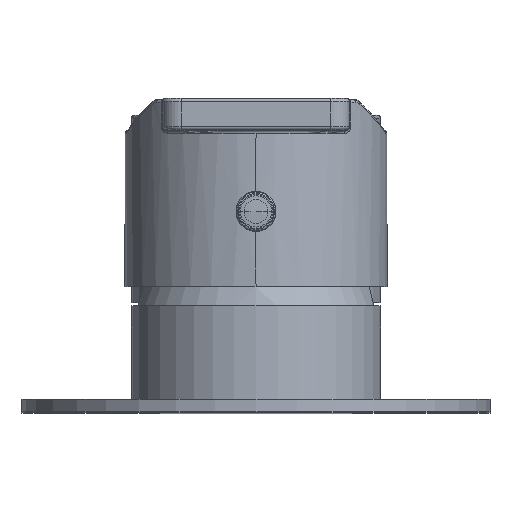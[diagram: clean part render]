
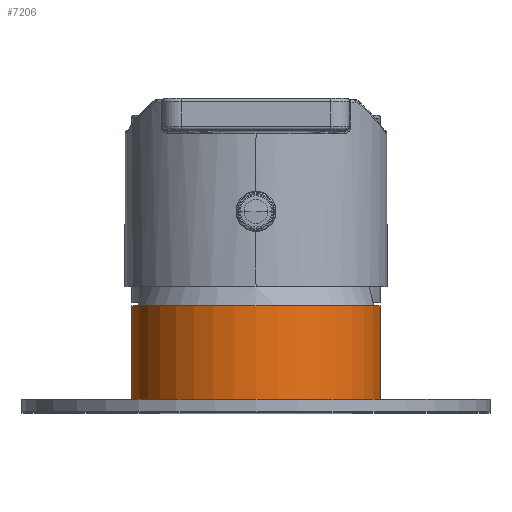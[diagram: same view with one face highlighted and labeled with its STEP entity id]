
A CAD part, top view. The second image highlights one B-rep face of the part: STEP entity #7206.
In plain terms, the highlighted cylindrical face has radius 20 mm (diameter 40 mm), a partial arc.
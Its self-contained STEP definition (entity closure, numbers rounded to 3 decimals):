
#297=CARTESIAN_POINT('',(0.,97.,-67.5));
#298=DIRECTION('',(0.,-1.,0.));
#299=DIRECTION('',(1.,0.,0.));
#300=AXIS2_PLACEMENT_3D('',#297,#298,#299);
#317=CARTESIAN_POINT('',(0.,82.,-67.5));
#318=DIRECTION('',(0.,1.,0.));
#319=DIRECTION('',(-1.,0.,0.));
#320=AXIS2_PLACEMENT_3D('',#317,#318,#319);
#322=DIRECTION('',(0.,1.,0.));
#323=VECTOR('',#322,15.);
#324=CARTESIAN_POINT('',(-20.,82.,-67.5));
#325=LINE('',#324,#323);
#326=DIRECTION('',(0.,1.,0.));
#327=VECTOR('',#326,15.);
#328=CARTESIAN_POINT('',(20.,82.,-67.5));
#329=LINE('',#328,#327);
#6390=CARTESIAN_POINT('',(20.,97.,-67.5));
#6391=CARTESIAN_POINT('',(-20.,97.,-67.5));
#6392=VERTEX_POINT('',#6390);
#6393=VERTEX_POINT('',#6391);
#6837=CARTESIAN_POINT('',(20.,82.,-67.5));
#6838=CARTESIAN_POINT('',(-20.,82.,-67.5));
#6839=VERTEX_POINT('',#6837);
#6840=VERTEX_POINT('',#6838);
#7192=CARTESIAN_POINT('',(0.,53.425,-67.5));
#7193=DIRECTION('',(0.,1.,0.));
#7194=DIRECTION('',(1.,0.,0.));
#7195=AXIS2_PLACEMENT_3D('',#7192,#7193,#7194);
#7196=CYLINDRICAL_SURFACE('',#7195,20.);
#7198=ORIENTED_EDGE('',*,*,#7197,.F.);
#7200=ORIENTED_EDGE('',*,*,#7199,.T.);
#7201=ORIENTED_EDGE('',*,*,#7180,.F.);
#7203=ORIENTED_EDGE('',*,*,#7202,.F.);
#7204=EDGE_LOOP('',(#7198,#7200,#7201,#7203));
#7205=FACE_OUTER_BOUND('',#7204,.F.);
#7206=ADVANCED_FACE('',(#7205),#7196,.T.);
#301=CIRCLE('',#300,20.);
#321=CIRCLE('',#320,20.);
#7180=EDGE_CURVE('',#6392,#6393,#301,.T.);
#7197=EDGE_CURVE('',#6840,#6839,#321,.T.);
#7199=EDGE_CURVE('',#6840,#6393,#325,.T.);
#7202=EDGE_CURVE('',#6839,#6392,#329,.T.);
